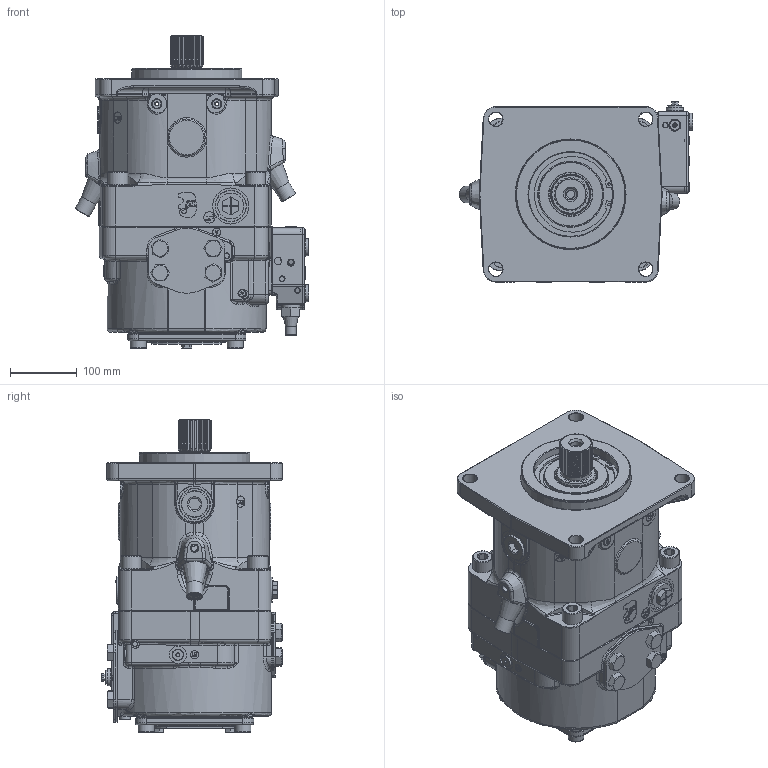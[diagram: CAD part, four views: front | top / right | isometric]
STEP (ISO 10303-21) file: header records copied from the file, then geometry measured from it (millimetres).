
FILE_DESCRIPTION (( 'STEP AP203' ), '1' );
FILE_NAME ('K12VLO190LRDS／10R-NZD12N00液压泵.STEP', '2022-11-16T00:28:25', ( '' ), ( '' ), 'SwSTEP 2.0', 'SolidWorks 2015', '' );
FILE_SCHEMA (( 'CONFIG_CONTROL_DESIGN' ));
Length unit declared in the file: millimetre
Products named in the file (1): K12VLO190LRDS／10R-NZD12N00液压泵
Bounding box: 350.11 x 270.3 x 468.7 mm (x, y, z)
Surface area: 731336.8 mm2 (no closed solid volume)
Topology: 0 solids, 107 shells, 1846 faces, 5660 edges, 3858 vertices
Faces by surface type: plane 707, cylinder 436, bspline 341, cone 178, torus 165, sphere 19
Full cylindrical faces by diameter (mm): 3.909 x2, 7 x1, 10 x5, 10.2 x2, 11 x1, 12 x8, 12.5 x2, 13 x6, 14 x4, 14.5 x2, 15 x9, 16 x3, 17 x7, 18 x1, 19 x1, 20.5 x2, 21 x5, 24 x5, 24.5 x2, 25.5 x3, 26 x7, 27 x2, 30 x4, 34.95 x1, 35 x1, 38.9 x1, 40 x4, 44.6 x1, 47 x3, 54 x3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
Entity records: 80908 total; most frequent: CARTESIAN_POINT 35336, ORIENTED_EDGE 8952, DIRECTION 8572, EDGE_CURVE 5321, VERTEX_POINT 3772, AXIS2_PLACEMENT_3D 3177, EDGE_LOOP 2333, VECTOR 2218
